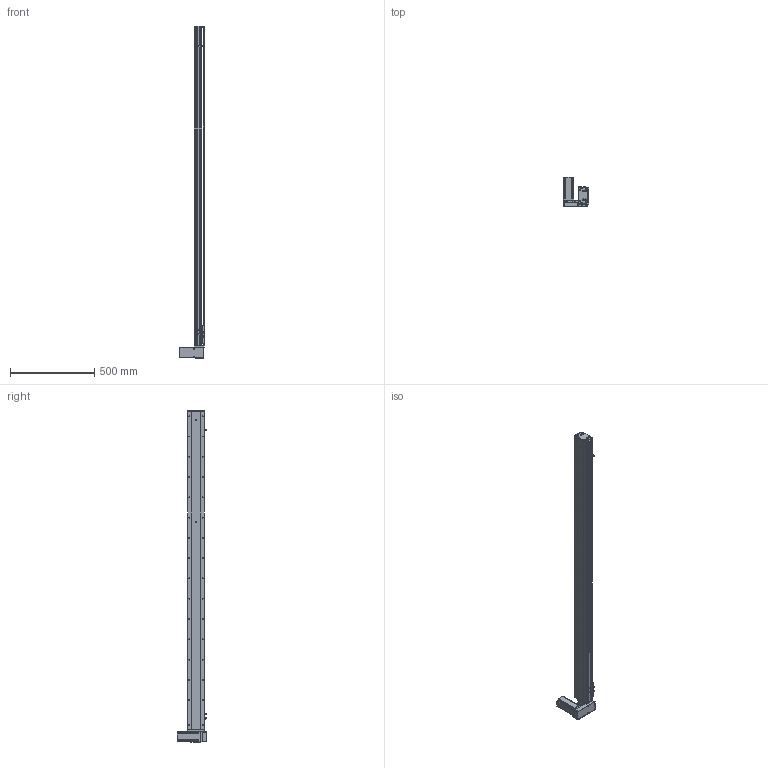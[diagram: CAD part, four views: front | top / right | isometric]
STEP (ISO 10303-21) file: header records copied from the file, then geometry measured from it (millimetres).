
FILE_DESCRIPTION (( 'STEP AP214' ), '1' );
FILE_NAME ('KSD100B-S1700-MRD-CM.STEP', '2019-10-16T08:18:00', ( '微软用户' ), ( '微软中国' ), 'SwSTEP 2.0', 'SolidWorks 2014', '' );
FILE_SCHEMA (( 'AUTOMOTIVE_DESIGN' ));
Length unit declared in the file: millimetre
Products named in the file (12): 100宽马达安装板连板上下折丝杆同步带; 台达ECMA－C20604AS伺服电机; U倰嫖萇EEㄜSX672; 覜茼え100遵圉猾敕; 100宽防尘板1700行程-同步带; 100宽马达安装板同步带右; 100宽同步带安装板半封闭; 100宽马达安装板同步带; 100遵傷啣肮祭湍; 100宽底板半封闭同步带1700行程; KSD100B-S1700-MRD-CM; 悵誘欶奻狟殏
Assembly tree (13 placements, depth 2):
  KSD100B-S1700-MRD-CM
    100宽底板半封闭同步带1700行程
    100遵傷啣肮祭湍
    100宽马达安装板同步带
    100宽同步带安装板半封闭
    100宽马达安装板同步带右
    100宽防尘板1700行程-同步带
    覜茼え100遵圉猾敕
    U倰嫖萇EEㄜSX672  x3
    台达ECMA－C20604AS伺服电机
    100宽马达安装板连板上下折丝杆同步带
    悵誘欶奻狟殏
Bounding box: 148 x 174.7 x 1965 mm (x, y, z)
Volume: 4100585.1 mm3; surface area: 1401826.8 mm2
Topology: 14 solids, 14 shells, 1673 faces, 4744 edges, 2987 vertices
Faces by surface type: cylinder 871, plane 615, cone 187
Entity records: 61357 total; most frequent: CARTESIAN_POINT 13092, DIRECTION 8284, ORIENTED_EDGE 8020, EDGE_CURVE 4010, AXIS2_PLACEMENT_3D 3053, VERTEX_POINT 2611, LINE 2178, VECTOR 2178
